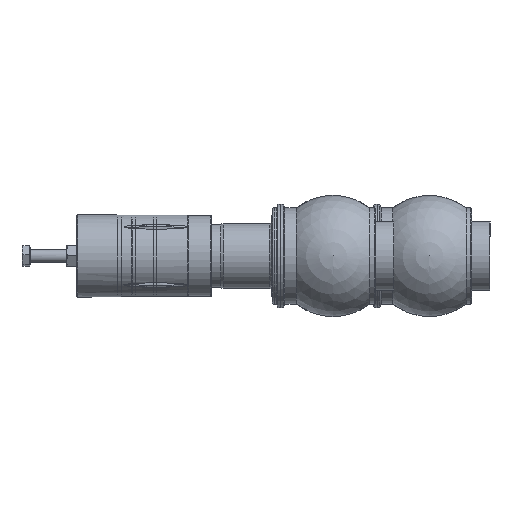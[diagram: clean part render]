
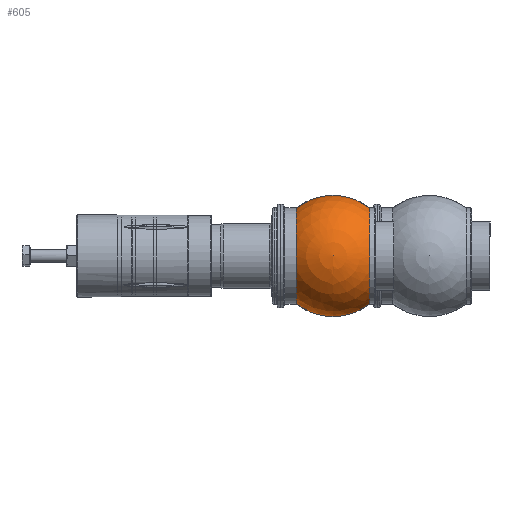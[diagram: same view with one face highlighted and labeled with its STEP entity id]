
A CAD part, left-side view. The second image highlights one B-rep face of the part: STEP entity #605.
In plain terms, the highlighted spherical face has radius 66 mm.
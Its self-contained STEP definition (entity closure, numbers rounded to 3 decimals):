
#465=CARTESIAN_POINT('',(38.05,66.0,53.928));
#466=VERTEX_POINT('',#465);
#467=CARTESIAN_POINT('',(0.0,66.0,53.928));
#468=DIRECTION('',(0.0,0.0,-1.0));
#469=DIRECTION('',(-1.0,0.0,0.0));
#470=AXIS2_PLACEMENT_3D('',#467,#468,#469);
#471=CIRCLE('',#470,38.05);
#472=EDGE_CURVE('',#466,#466,#471,.T.);
#568=CARTESIAN_POINT('',(52.5,26.003,0.0));
#569=VERTEX_POINT('',#568);
#570=CARTESIAN_POINT('',(0.0,26.003,0.0));
#571=DIRECTION('',(0.0,1.0,0.0));
#572=DIRECTION('',(1.0,0.0,0.0));
#573=AXIS2_PLACEMENT_3D('',#570,#571,#572);
#574=CIRCLE('',#573,52.5);
#575=EDGE_CURVE('',#569,#569,#574,.T.);
#583=CARTESIAN_POINT('',(0.0,66.0,0.0));
#584=DIRECTION('',(0.0,0.0,1.0));
#585=DIRECTION('',(1.0,0.0,0.0));
#586=AXIS2_PLACEMENT_3D('',#583,#584,#585);
#587=SPHERICAL_SURFACE('',#586,66.0);
#588=ORIENTED_EDGE('',*,*,#472,.T.);
#589=EDGE_LOOP('',(#588));
#590=FACE_OUTER_BOUND('',#589,.T.);
#591=ORIENTED_EDGE('',*,*,#575,.T.);
#592=EDGE_LOOP('',(#591));
#593=FACE_BOUND('',#592,.T.);
#594=CARTESIAN_POINT('',(52.5,105.997,0.0));
#595=VERTEX_POINT('',#594);
#596=CARTESIAN_POINT('',(0.0,105.997,0.0));
#597=DIRECTION('',(0.0,1.0,0.0));
#598=DIRECTION('',(1.0,0.0,0.0));
#599=AXIS2_PLACEMENT_3D('',#596,#597,#598);
#600=CIRCLE('',#599,52.5);
#601=EDGE_CURVE('',#595,#595,#600,.T.);
#602=ORIENTED_EDGE('',*,*,#601,.F.);
#603=EDGE_LOOP('',(#602));
#604=FACE_BOUND('',#603,.T.);
#605=ADVANCED_FACE('',(#590,#593,#604),#587,.T.);
